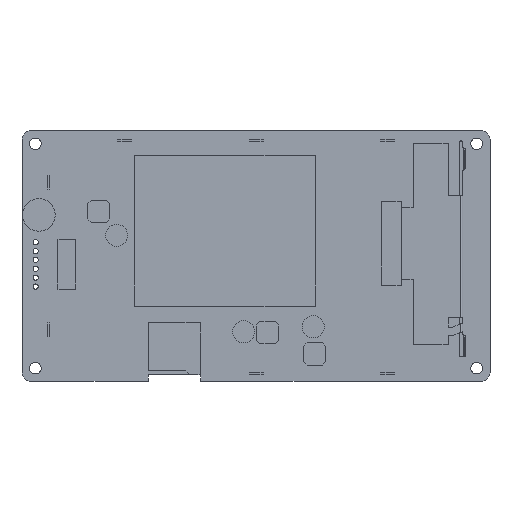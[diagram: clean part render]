
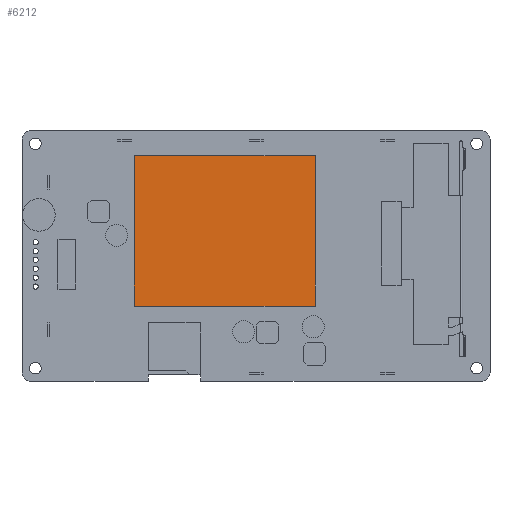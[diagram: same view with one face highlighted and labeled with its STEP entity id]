
A CAD part, front view. The second image highlights one B-rep face of the part: STEP entity #6212.
In plain terms, the highlighted planar face has unit normal (0, -1, 0).
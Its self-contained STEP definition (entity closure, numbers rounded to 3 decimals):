
#2051=DIRECTION('',(-1.,0.,0.));
#2052=VECTOR('',#2051,51.742);
#2053=CARTESIAN_POINT('',(16.884,-8.3,28.916));
#2054=LINE('',#2053,#2052);
#2055=DIRECTION('',(0.,0.,1.));
#2056=VECTOR('',#2055,42.972);
#2057=CARTESIAN_POINT('',(16.884,-8.3,-14.057));
#2058=LINE('',#2057,#2056);
#2059=DIRECTION('',(1.,0.,0.));
#2060=VECTOR('',#2059,51.742);
#2061=CARTESIAN_POINT('',(-34.858,-8.3,-14.057));
#2062=LINE('',#2061,#2060);
#2063=DIRECTION('',(0.,0.,-1.));
#2064=VECTOR('',#2063,42.972);
#2065=CARTESIAN_POINT('',(-34.858,-8.3,28.916));
#2066=LINE('',#2065,#2064);
#2911=CARTESIAN_POINT('',(16.884,-8.3,28.916));
#2912=CARTESIAN_POINT('',(-34.858,-8.3,28.916));
#2913=VERTEX_POINT('',#2911);
#2914=VERTEX_POINT('',#2912);
#2915=CARTESIAN_POINT('',(-34.858,-8.3,-14.057));
#2916=VERTEX_POINT('',#2915);
#2917=CARTESIAN_POINT('',(16.884,-8.3,-14.057));
#2918=VERTEX_POINT('',#2917);
#6201=CARTESIAN_POINT('',(0.,-8.3,0.));
#6202=DIRECTION('',(0.,-1.,0.));
#6203=DIRECTION('',(1.,0.,0.));
#6204=AXIS2_PLACEMENT_3D('',#6201,#6202,#6203);
#6205=PLANE('',#6204);
#6206=ORIENTED_EDGE('',*,*,#6153,.F.);
#6207=ORIENTED_EDGE('',*,*,#6168,.F.);
#6208=ORIENTED_EDGE('',*,*,#6182,.F.);
#6209=ORIENTED_EDGE('',*,*,#6195,.F.);
#6210=EDGE_LOOP('',(#6206,#6207,#6208,#6209));
#6211=FACE_OUTER_BOUND('',#6210,.F.);
#6153=EDGE_CURVE('',#2913,#2914,#2054,.T.);
#6168=EDGE_CURVE('',#2918,#2913,#2058,.T.);
#6182=EDGE_CURVE('',#2916,#2918,#2062,.T.);
#6195=EDGE_CURVE('',#2914,#2916,#2066,.T.);
#6212=ADVANCED_FACE('',(#6211),#6205,.T.);
